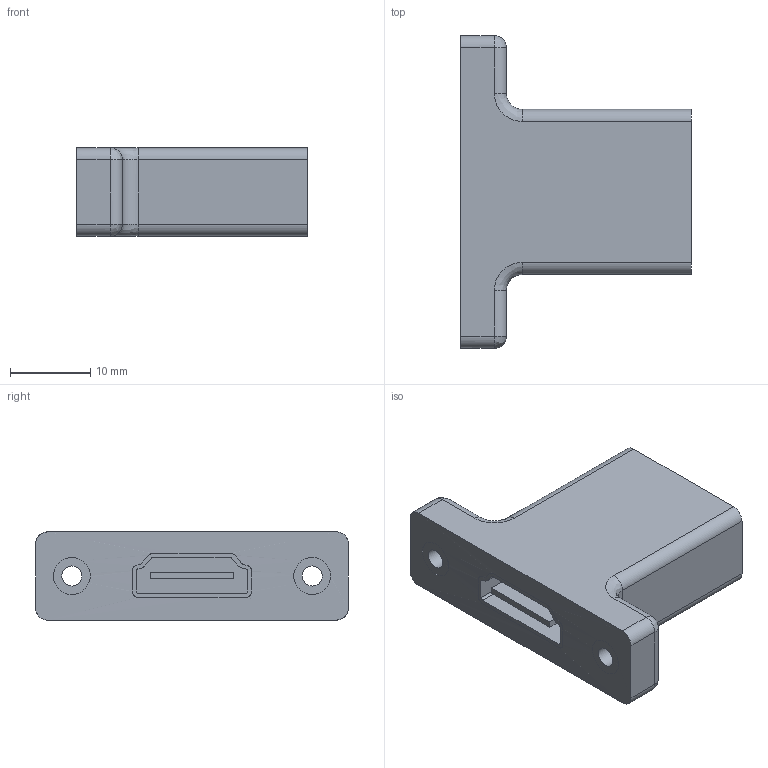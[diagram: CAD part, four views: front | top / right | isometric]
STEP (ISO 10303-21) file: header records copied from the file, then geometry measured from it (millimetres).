
FILE_DESCRIPTION( ('This file contains a STEP AP42 implementation' ,'as created by ZW3D STEP Interface translator.') ,'2;1' );
FILE_NAME( 'TB-005_FCAM-FAMF-C02D_SD.stp' ,'26 320. 94943', (''), ('ZWCAD Software Co.'), 'Version 1.0', 'ZW3D to STEP translator', '' );
FILE_SCHEMA(('AUTOMOTIVE_DESIGN'));
Length unit declared in the file: millimetre
Products named in the file (2): 0; TB-005_FCAM-FAMF-C02D_SD
Bounding box: 28.8 x 39 x 11 mm (x, y, z)
Volume: 6855.6 mm3; surface area: 3626.9 mm2
Topology: 1 solids, 1 shells, 130 faces, 312 edges, 194 vertices
Faces by surface type: bspline 130
Entity records: 6481 total; most frequent: CARTESIAN_POINT 4389, ORIENTED_EDGE 624, B_SPLINE_CURVE_WITH_KNOTS 312, EDGE_CURVE 312, VERTEX_POINT 194, EDGE_LOOP 144, FACE_OUTER_BOUND 130, ADVANCED_FACE 130
